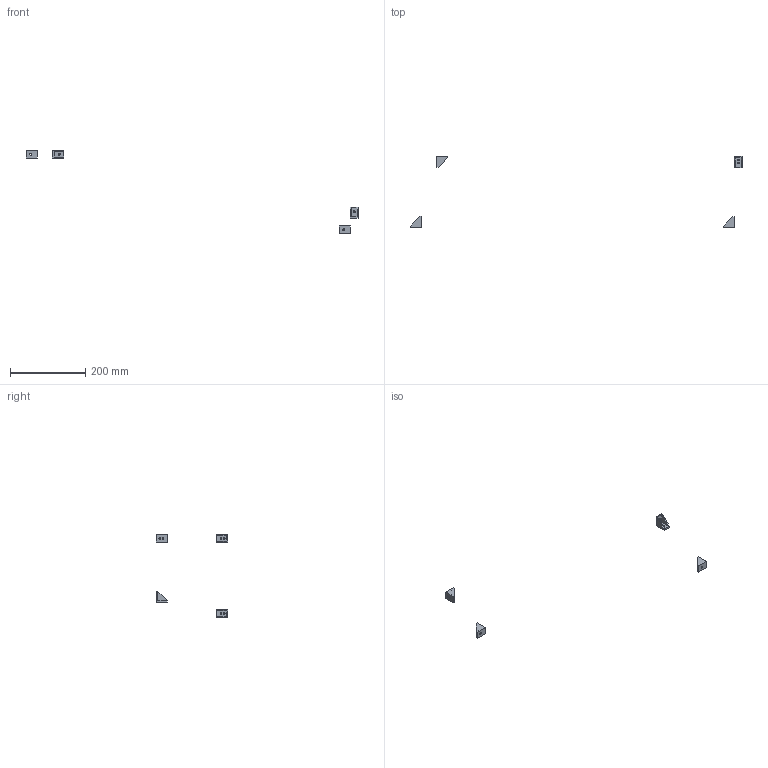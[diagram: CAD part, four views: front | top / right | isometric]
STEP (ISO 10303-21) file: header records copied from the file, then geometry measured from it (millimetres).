
FILE_DESCRIPTION(/* description */ (''),/* implementation_level */ '2;1');
FILE_NAME(/* name */ '3.frame-top#3.6#HBLFSN5',/* time_stamp */ '2014-12-01T20:12:20+01:00',/* author */ (''),/* organization */ (''),/* preprocessor_version */ 'ST-DEVELOPER v14',/* originating_system */ '',/* authorisation */ '');
FILE_SCHEMA (('AUTOMOTIVE_DESIGN'));
Length unit declared in the file: millimetre
Products named in the file (2): Document; angle bracket, single
Assembly tree (3 placements, depth 2):
  Document
    angle bracket, single  x3
Bounding box: 880 x 190 x 220 mm (x, y, z)
Volume: 25421 mm3; surface area: 16877.3 mm2
Topology: 4 solids, 4 shells, 72 faces, 176 edges, 112 vertices
Faces by surface type: plane 48, bspline 24
Entity records: 2587 total; most frequent: CARTESIAN_POINT 1316, B_SPLINE_CURVE_WITH_KNOTS 228, ORIENTED_EDGE 176, PCURVE 176, DEFINITIONAL_REPRESENTATION 176, SURFACE_CURVE 88, EDGE_CURVE 88, VERTEX_POINT 56
